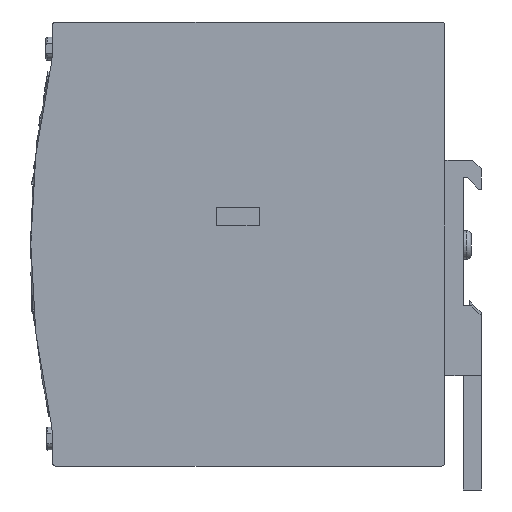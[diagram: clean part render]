
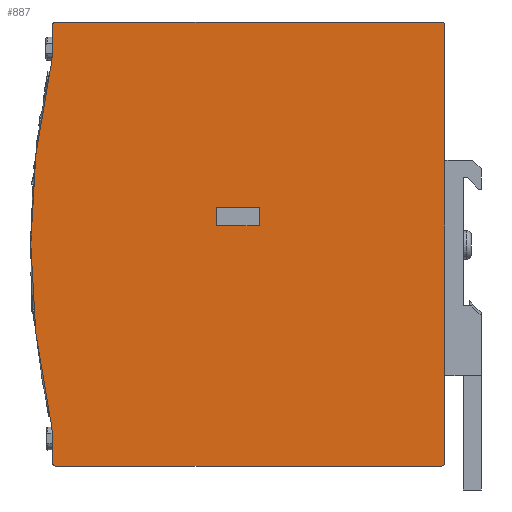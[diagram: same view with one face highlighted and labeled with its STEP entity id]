
A CAD part, front view. The second image highlights one B-rep face of the part: STEP entity #887.
In plain terms, the highlighted planar face has unit normal (0, -1, 0).
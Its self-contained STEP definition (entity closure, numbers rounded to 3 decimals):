
#887 = ADVANCED_FACE( '', ( #2795 ), #2796, .T. );
#2795 = FACE_OUTER_BOUND( '', #5673, .T. );
#2796 = PLANE( '', #5674 );
#5673 = EDGE_LOOP( '', ( #12119, #12120, #12121, #12122, #12123, #12124, #12125, #12126, #12127, #12128, #12129, #12130 ) );
#5674 = AXIS2_PLACEMENT_3D( '', #12131, #12132, #12133 );
#12119 = ORIENTED_EDGE( '', *, *, #21935, .T. );
#12120 = ORIENTED_EDGE( '', *, *, #22263, .T. );
#12121 = ORIENTED_EDGE( '', *, *, #22264, .T. );
#12122 = ORIENTED_EDGE( '', *, *, #22265, .T. );
#12123 = ORIENTED_EDGE( '', *, *, #22266, .T. );
#12124 = ORIENTED_EDGE( '', *, *, #22230, .T. );
#12125 = ORIENTED_EDGE( '', *, *, #21995, .F. );
#12126 = ORIENTED_EDGE( '', *, *, #22262, .T. );
#12127 = ORIENTED_EDGE( '', *, *, #21643, .F. );
#12128 = ORIENTED_EDGE( '', *, *, #22258, .T. );
#12129 = ORIENTED_EDGE( '', *, *, #22005, .F. );
#12130 = ORIENTED_EDGE( '', *, *, #22228, .T. );
#12131 = CARTESIAN_POINT( '', ( -58.05, -41.75, -62.25 ) );
#12132 = DIRECTION( '', ( 0., -1., 0. ) );
#12133 = DIRECTION( '', ( 0., 0., -1. ) );
#21643 = EDGE_CURVE( '', #25691, #25693, #25694, .F. );
#21935 = EDGE_CURVE( '', #26277, #26275, #26278, .T. );
#21995 = EDGE_CURVE( '', #26384, #26385, #26386, .T. );
#22005 = EDGE_CURVE( '', #26403, #26405, #26406, .T. );
#22228 = EDGE_CURVE( '', #26403, #26277, #26773, .T. );
#22230 = EDGE_CURVE( '', #26775, #26385, #26776, .T. );
#22258 = EDGE_CURVE( '', #25691, #26405, #26817, .F. );
#22262 = EDGE_CURVE( '', #26384, #25693, #26821, .F. );
#22263 = EDGE_CURVE( '', #26275, #26822, #26823, .T. );
#22264 = EDGE_CURVE( '', #26822, #26824, #26825, .T. );
#22265 = EDGE_CURVE( '', #26824, #26826, #26827, .T. );
#22266 = EDGE_CURVE( '', #26826, #26775, #26828, .T. );
#25691 = VERTEX_POINT( '', #33852 );
#25693 = VERTEX_POINT( '', #33855 );
#25694 = CIRCLE( '', #33856, 223.043 );
#26275 = VERTEX_POINT( '', #36042 );
#26277 = VERTEX_POINT( '', #36045 );
#26278 = LINE( '', #36046, #36047 );
#26384 = VERTEX_POINT( '', #36414 );
#26385 = VERTEX_POINT( '', #36415 );
#26386 = LINE( '', #36416, #36417 );
#26403 = VERTEX_POINT( '', #36442 );
#26405 = VERTEX_POINT( '', #36445 );
#26406 = LINE( '', #36446, #36447 );
#26773 = CIRCLE( '', #37605, 1. );
#26775 = VERTEX_POINT( '', #37607 );
#26776 = CIRCLE( '', #37608, 1. );
#26817 = CIRCLE( '', #37671, 20. );
#26821 = CIRCLE( '', #37676, 20. );
#26822 = VERTEX_POINT( '', #37677 );
#26823 = CIRCLE( '', #37678, 1. );
#26824 = VERTEX_POINT( '', #37679 );
#26825 = LINE( '', #37680, #37681 );
#26826 = VERTEX_POINT( '', #37682 );
#26827 = CIRCLE( '', #37683, 1. );
#26828 = LINE( '', #37684, #37685 );
#33852 = CARTESIAN_POINT( '', ( -52.544, -41.75, -49.254 ) );
#33855 = CARTESIAN_POINT( '', ( -52.544, -41.75, 49.254 ) );
#33856 = AXIS2_PLACEMENT_3D( '', #45731, #45732, #45733 );
#36042 = CARTESIAN_POINT( '', ( 57.05, -41.75, -62.25 ) );
#36045 = CARTESIAN_POINT( '', ( -51.05, -41.75, -62.25 ) );
#36046 = CARTESIAN_POINT( '', ( -58.05, -41.75, -62.25 ) );
#36047 = VECTOR( '', #46217, 1000. );
#36414 = CARTESIAN_POINT( '', ( -52.05, -41.75, 53.67 ) );
#36415 = CARTESIAN_POINT( '', ( -52.05, -41.75, 61.25 ) );
#36416 = CARTESIAN_POINT( '', ( -52.05, -41.75, -62.25 ) );
#36417 = VECTOR( '', #46289, 1000. );
#36442 = CARTESIAN_POINT( '', ( -52.05, -41.75, -61.25 ) );
#36445 = CARTESIAN_POINT( '', ( -52.05, -41.75, -53.67 ) );
#36446 = CARTESIAN_POINT( '', ( -52.05, -41.75, -62.25 ) );
#36447 = VECTOR( '', #46299, 1000. );
#37605 = AXIS2_PLACEMENT_3D( '', #46520, #46521, #46522 );
#37607 = CARTESIAN_POINT( '', ( -51.05, -41.75, 62.25 ) );
#37608 = AXIS2_PLACEMENT_3D( '', #46526, #46527, #46528 );
#37671 = AXIS2_PLACEMENT_3D( '', #46566, #46567, #46568 );
#37676 = AXIS2_PLACEMENT_3D( '', #46576, #46577, #46578 );
#37677 = CARTESIAN_POINT( '', ( 58.05, -41.75, -61.25 ) );
#37678 = AXIS2_PLACEMENT_3D( '', #46579, #46580, #46581 );
#37679 = CARTESIAN_POINT( '', ( 58.05, -41.75, 61.25 ) );
#37680 = CARTESIAN_POINT( '', ( 58.05, -41.75, -62.25 ) );
#37681 = VECTOR( '', #46582, 1000. );
#37682 = CARTESIAN_POINT( '', ( 57.05, -41.75, 62.25 ) );
#37683 = AXIS2_PLACEMENT_3D( '', #46583, #46584, #46585 );
#37684 = CARTESIAN_POINT( '', ( 58.05, -41.75, 62.25 ) );
#37685 = VECTOR( '', #46586, 1000. );
#45731 = CARTESIAN_POINT( '', ( 164.993, -41.75, 0. ) );
#45732 = DIRECTION( '', ( 0., -1., 0. ) );
#45733 = DIRECTION( '', ( 0., 0., -1. ) );
#46217 = DIRECTION( '', ( 1., 0., 0. ) );
#46289 = DIRECTION( '', ( 0., 0., 1. ) );
#46299 = DIRECTION( '', ( 0., 0., 1. ) );
#46520 = CARTESIAN_POINT( '', ( -51.05, -41.75, -61.25 ) );
#46521 = DIRECTION( '', ( 0., -1., 0. ) );
#46522 = DIRECTION( '', ( 0., 0., -1. ) );
#46526 = CARTESIAN_POINT( '', ( -51.05, -41.75, 61.25 ) );
#46527 = DIRECTION( '', ( 0., -1., 0. ) );
#46528 = DIRECTION( '', ( 0., 0., -1. ) );
#46566 = CARTESIAN_POINT( '', ( -72.05, -41.75, -53.67 ) );
#46567 = DIRECTION( '', ( 0., -1., 0. ) );
#46568 = DIRECTION( '', ( 0., 0., -1. ) );
#46576 = CARTESIAN_POINT( '', ( -72.05, -41.75, 53.67 ) );
#46577 = DIRECTION( '', ( 0., -1., 0. ) );
#46578 = DIRECTION( '', ( 0., 0., -1. ) );
#46579 = CARTESIAN_POINT( '', ( 57.05, -41.75, -61.25 ) );
#46580 = DIRECTION( '', ( 0., -1., 0. ) );
#46581 = DIRECTION( '', ( 0., 0., -1. ) );
#46582 = DIRECTION( '', ( 0., 0., 1. ) );
#46583 = CARTESIAN_POINT( '', ( 57.05, -41.75, 61.25 ) );
#46584 = DIRECTION( '', ( 0., -1., 0. ) );
#46585 = DIRECTION( '', ( 0., 0., -1. ) );
#46586 = DIRECTION( '', ( -1., 0., 0. ) );
